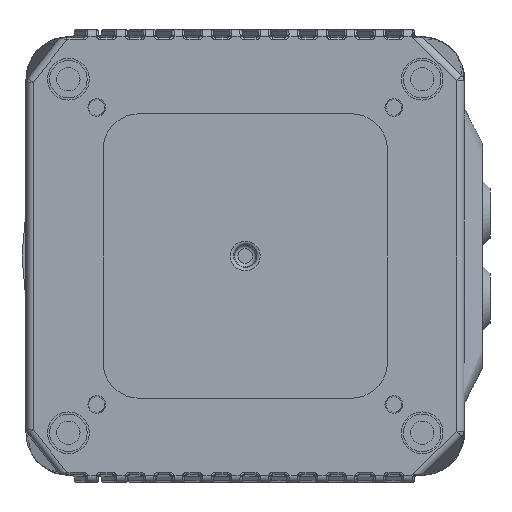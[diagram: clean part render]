
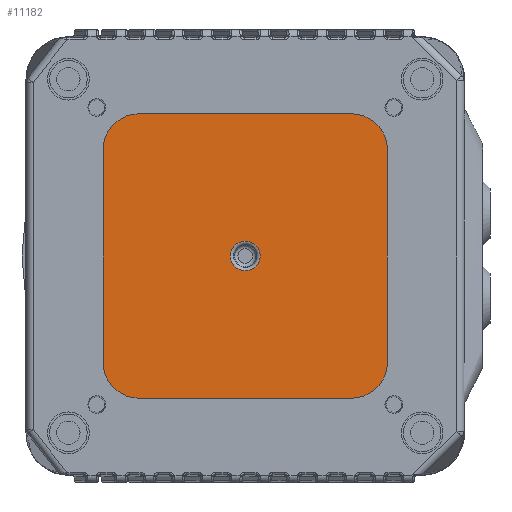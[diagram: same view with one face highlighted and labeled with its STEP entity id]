
A CAD part, front view. The second image highlights one B-rep face of the part: STEP entity #11182.
In plain terms, the highlighted planar face has unit normal (0, -1, 0).
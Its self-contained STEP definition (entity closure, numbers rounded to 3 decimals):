
#11182=ADVANCED_FACE('',(#14001,#14002),#12358,.F.);
#12358=PLANE('',#38765);
#13480=CIRCLE('',#38760,5.1);
#13481=CIRCLE('',#38761,5.1);
#13482=CIRCLE('',#38762,5.1);
#13483=CIRCLE('',#38763,5.1);
#13484=CIRCLE('',#38764,2.1);
#14001=FACE_BOUND('',#15436,.T.);
#14002=FACE_BOUND('',#15437,.T.);
#15436=EDGE_LOOP('',(#21629,#21630,#21631,#21632,#21633,#21634,#21635,#21636));
#15437=EDGE_LOOP('',(#21637));
#21629=ORIENTED_EDGE('',*,*,#31345,.T.);
#21630=ORIENTED_EDGE('',*,*,#31346,.T.);
#21631=ORIENTED_EDGE('',*,*,#31347,.T.);
#21632=ORIENTED_EDGE('',*,*,#31344,.F.);
#21633=ORIENTED_EDGE('',*,*,#31348,.T.);
#21634=ORIENTED_EDGE('',*,*,#31349,.F.);
#21635=ORIENTED_EDGE('',*,*,#31350,.T.);
#21636=ORIENTED_EDGE('',*,*,#31351,.F.);
#21637=ORIENTED_EDGE('',*,*,#31352,.T.);
#27394=VERTEX_POINT('',#63818);
#27395=VERTEX_POINT('',#63820);
#27396=VERTEX_POINT('',#63824);
#27397=VERTEX_POINT('',#63825);
#27398=VERTEX_POINT('',#63827);
#27399=VERTEX_POINT('',#63830);
#27400=VERTEX_POINT('',#63832);
#27401=VERTEX_POINT('',#63834);
#27402=VERTEX_POINT('',#63837);
#31344=EDGE_CURVE('',#27395,#27394,#34244,.T.);
#31345=EDGE_CURVE('',#27396,#27397,#13480,.T.);
#31346=EDGE_CURVE('',#27397,#27398,#34245,.T.);
#31347=EDGE_CURVE('',#27398,#27394,#13481,.T.);
#31348=EDGE_CURVE('',#27395,#27399,#13482,.T.);
#31349=EDGE_CURVE('',#27400,#27399,#34246,.T.);
#31350=EDGE_CURVE('',#27400,#27401,#13483,.T.);
#31351=EDGE_CURVE('',#27396,#27401,#34247,.T.);
#31352=EDGE_CURVE('',#27402,#27402,#13484,.T.);
#34244=LINE('',#63821,#36171);
#34245=LINE('',#63826,#36172);
#34246=LINE('',#63831,#36173);
#34247=LINE('',#63835,#36174);
#36171=VECTOR('',#43967,1.);
#36172=VECTOR('',#43972,1.);
#36173=VECTOR('',#43977,1.);
#36174=VECTOR('',#43980,1.);
#38760=AXIS2_PLACEMENT_3D('',#63823,#43970,#43971);
#38761=AXIS2_PLACEMENT_3D('',#63828,#43973,#43974);
#38762=AXIS2_PLACEMENT_3D('',#63829,#43975,#43976);
#38763=AXIS2_PLACEMENT_3D('',#63833,#43978,#43979);
#38764=AXIS2_PLACEMENT_3D('',#63836,#43981,#43982);
#38765=AXIS2_PLACEMENT_3D('',#63838,#43983,#43984);
#43967=DIRECTION('',(0.,0.,1.));
#43970=DIRECTION('',(0.,-1.,0.));
#43971=DIRECTION('',(1.,0.,0.));
#43972=DIRECTION('',(-1.,0.,0.));
#43973=DIRECTION('',(0.,-1.,0.));
#43974=DIRECTION('',(0.,0.,1.));
#43975=DIRECTION('',(0.,-1.,0.));
#43976=DIRECTION('',(-1.,0.,0.));
#43977=DIRECTION('',(-1.,0.,0.));
#43978=DIRECTION('',(0.,-1.,0.));
#43979=DIRECTION('',(0.,0.,-1.));
#43980=DIRECTION('',(0.,0.,-1.));
#43981=DIRECTION('',(0.,1.,0.));
#43982=DIRECTION('',(-1.,0.,0.));
#43983=DIRECTION('',(0.,1.,0.));
#43984=DIRECTION('',(0.,0.,-1.));
#63818=CARTESIAN_POINT('',(-70.1,1.7,41.));
#63820=CARTESIAN_POINT('',(-70.1,1.7,11.));
#63821=CARTESIAN_POINT('',(-70.1,1.7,11.));
#63823=CARTESIAN_POINT('',(-35.,1.7,41.));
#63824=CARTESIAN_POINT('',(-29.9,1.7,41.));
#63825=CARTESIAN_POINT('',(-35.,1.7,46.1));
#63826=CARTESIAN_POINT('',(-35.,1.7,46.1));
#63827=CARTESIAN_POINT('',(-65.,1.7,46.1));
#63828=CARTESIAN_POINT('',(-65.,1.7,41.));
#63829=CARTESIAN_POINT('',(-65.,1.7,11.));
#63830=CARTESIAN_POINT('',(-65.,1.7,5.9));
#63831=CARTESIAN_POINT('',(-35.,1.7,5.9));
#63832=CARTESIAN_POINT('',(-35.,1.7,5.9));
#63833=CARTESIAN_POINT('',(-35.,1.7,11.));
#63834=CARTESIAN_POINT('',(-29.9,1.7,11.));
#63835=CARTESIAN_POINT('',(-29.9,1.7,41.));
#63836=CARTESIAN_POINT('',(-50.,1.7,26.));
#63837=CARTESIAN_POINT('',(-52.1,1.7,26.));
#63838=CARTESIAN_POINT('',(-65.,1.7,41.));
